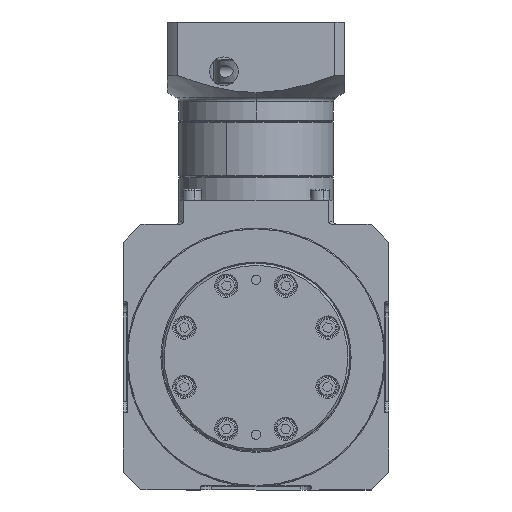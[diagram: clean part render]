
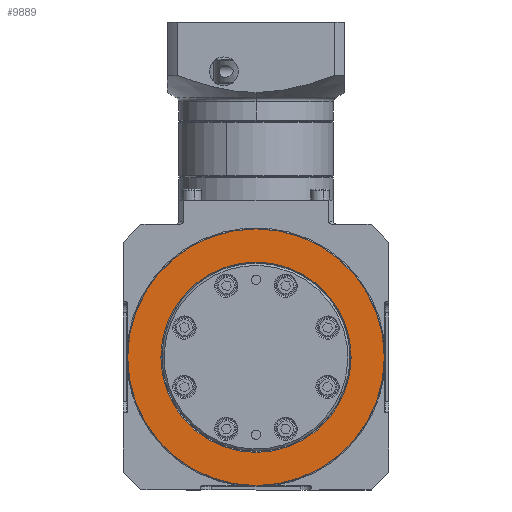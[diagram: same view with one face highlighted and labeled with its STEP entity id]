
A CAD part, left-side view. The second image highlights one B-rep face of the part: STEP entity #9889.
In plain terms, the highlighted planar face has unit normal (-1, 0, 0).
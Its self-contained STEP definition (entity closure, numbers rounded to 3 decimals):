
#1816 = CARTESIAN_POINT ( 'NONE',  ( -37., 0., -58. ) ) ;
#2051 = PLANE ( 'NONE',  #4489 ) ;
#3739 = DIRECTION ( 'NONE',  ( 0., 0., 1. ) ) ;
#4153 = AXIS2_PLACEMENT_3D ( 'NONE', #7437, #34256, #14660 ) ;
#4399 = DIRECTION ( 'NONE',  ( -1., 0., 0. ) ) ;
#4489 = AXIS2_PLACEMENT_3D ( 'NONE', #18219, #41223, #21654 ) ;
#5485 = AXIS2_PLACEMENT_3D ( 'NONE', #36193, #20083, #3739 ) ;
#7246 = CARTESIAN_POINT ( 'NONE',  ( -37., 0., 0. ) ) ;
#7262 = CARTESIAN_POINT ( 'NONE',  ( -37., 0., -43. ) ) ;
#7437 = CARTESIAN_POINT ( 'NONE',  ( -37., 0., 0. ) ) ;
#7799 = CARTESIAN_POINT ( 'NONE',  ( -37., 0., 43. ) ) ;
#8319 = CIRCLE ( 'NONE', #5485, 58. ) ;
#8616 = FACE_BOUND ( 'NONE', #17597, .T. ) ;
#9821 = ORIENTED_EDGE ( 'NONE', *, *, #15043, .T. ) ;
#9889 = ADVANCED_FACE ( 'NONE', ( #8616, #34372 ), #2051, .F. ) ;
#11904 = EDGE_CURVE ( 'NONE', #22639, #24490, #25488, .T. ) ;
#11961 = EDGE_CURVE ( 'NONE', #26739, #26681, #35922, .T. ) ;
#14660 = DIRECTION ( 'NONE',  ( 0., 0., -1. ) ) ;
#14824 = EDGE_CURVE ( 'NONE', #26681, #26739, #8319, .T. ) ;
#15043 = EDGE_CURVE ( 'NONE', #24490, #22639, #26432, .T. ) ;
#15055 = AXIS2_PLACEMENT_3D ( 'NONE', #34298, #4399, #30649 ) ;
#15572 = CARTESIAN_POINT ( 'NONE',  ( -37., 0., 58. ) ) ;
#17169 = AXIS2_PLACEMENT_3D ( 'NONE', #7246, #17513, #37577 ) ;
#17513 = DIRECTION ( 'NONE',  ( 1., 0., 0. ) ) ;
#17597 = EDGE_LOOP ( 'NONE', ( #32589, #9821 ) ) ;
#18219 = CARTESIAN_POINT ( 'NONE',  ( -37., 0., 0. ) ) ;
#18599 = ORIENTED_EDGE ( 'NONE', *, *, #14824, .T. ) ;
#20083 = DIRECTION ( 'NONE',  ( -1., 0., 0. ) ) ;
#21654 = DIRECTION ( 'NONE',  ( 0., 0., -1. ) ) ;
#22639 = VERTEX_POINT ( 'NONE', #7799 ) ;
#24490 = VERTEX_POINT ( 'NONE', #7262 ) ;
#25488 = CIRCLE ( 'NONE', #17169, 43. ) ;
#26432 = CIRCLE ( 'NONE', #4153, 43. ) ;
#26681 = VERTEX_POINT ( 'NONE', #15572 ) ;
#26739 = VERTEX_POINT ( 'NONE', #1816 ) ;
#30649 = DIRECTION ( 'NONE',  ( 0., 0., 1. ) ) ;
#32589 = ORIENTED_EDGE ( 'NONE', *, *, #11904, .T. ) ;
#34256 = DIRECTION ( 'NONE',  ( 1., 0., 0. ) ) ;
#34298 = CARTESIAN_POINT ( 'NONE',  ( -37., 0., 0. ) ) ;
#34372 = FACE_OUTER_BOUND ( 'NONE', #37122, .T. ) ;
#35922 = CIRCLE ( 'NONE', #15055, 58. ) ;
#36193 = CARTESIAN_POINT ( 'NONE',  ( -37., 0., 0. ) ) ;
#37122 = EDGE_LOOP ( 'NONE', ( #18599, #40866 ) ) ;
#37577 = DIRECTION ( 'NONE',  ( 0., 0., -1. ) ) ;
#40866 = ORIENTED_EDGE ( 'NONE', *, *, #11961, .T. ) ;
#41223 = DIRECTION ( 'NONE',  ( 1., 0., 0. ) ) ;
